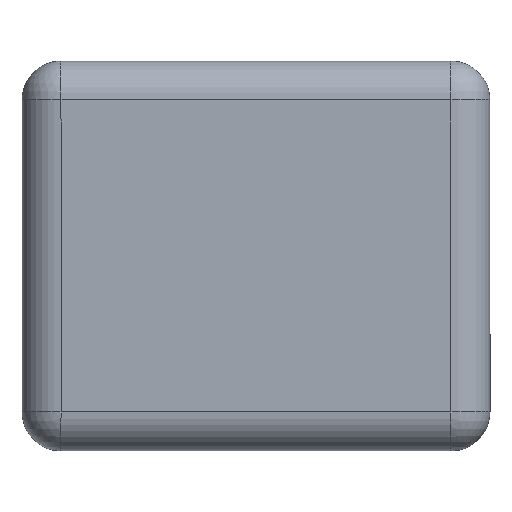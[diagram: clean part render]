
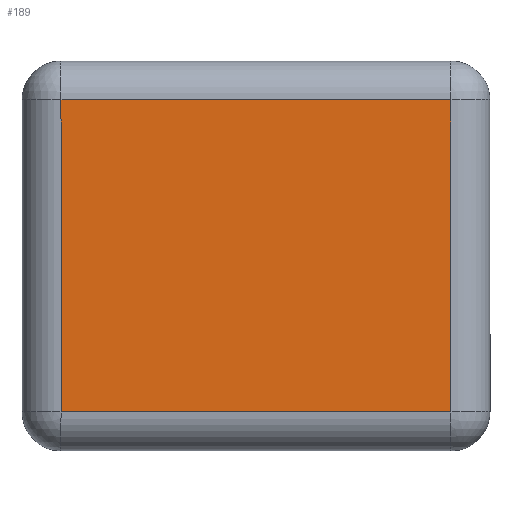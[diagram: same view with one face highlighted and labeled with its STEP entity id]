
A CAD part, top view. The second image highlights one B-rep face of the part: STEP entity #189.
In plain terms, the highlighted planar face has unit normal (0, 0, 1).
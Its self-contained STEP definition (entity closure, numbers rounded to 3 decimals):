
#12 = EDGE_LOOP ( 'NONE', ( #440, #148, #724, #612 ) ) ;
#19 = LINE ( 'NONE', #141, #840 ) ;
#79 = DIRECTION ( 'NONE',  ( 0., 1., 0. ) ) ;
#84 = EDGE_CURVE ( 'NONE', #88, #263, #132, .T. ) ;
#88 = VERTEX_POINT ( 'NONE', #283 ) ;
#94 = EDGE_CURVE ( 'NONE', #263, #571, #19, .T. ) ;
#97 = VERTEX_POINT ( 'NONE', #266 ) ;
#121 = VECTOR ( 'NONE', #237, 1000. ) ;
#132 = LINE ( 'NONE', #679, #147 ) ;
#141 = CARTESIAN_POINT ( 'NONE',  ( -12., 12., 1.5 ) ) ;
#147 = VECTOR ( 'NONE', #79, 1000. ) ;
#148 = ORIENTED_EDGE ( 'NONE', *, *, #225, .T. ) ;
#154 = DIRECTION ( 'NONE',  ( 1., 0., 0. ) ) ;
#168 = CARTESIAN_POINT ( 'NONE',  ( 21., 15., 1.5 ) ) ;
#173 = AXIS2_PLACEMENT_3D ( 'NONE', #168, #644, #154 ) ;
#189 = ADVANCED_FACE ( 'NONE', ( #834 ), #768, .T. ) ;
#225 = EDGE_CURVE ( 'NONE', #97, #88, #304, .T. ) ;
#237 = DIRECTION ( 'NONE',  ( 1., 0., 0. ) ) ;
#263 = VERTEX_POINT ( 'NONE', #447 ) ;
#266 = CARTESIAN_POINT ( 'NONE',  ( -12., -12., 1.5 ) ) ;
#283 = CARTESIAN_POINT ( 'NONE',  ( 18., -12., 1.5 ) ) ;
#304 = LINE ( 'NONE', #844, #121 ) ;
#325 = DIRECTION ( 'NONE',  ( 0., -1., 0. ) ) ;
#440 = ORIENTED_EDGE ( 'NONE', *, *, #555, .T. ) ;
#447 = CARTESIAN_POINT ( 'NONE',  ( 18., 12., 1.5 ) ) ;
#472 = CARTESIAN_POINT ( 'NONE',  ( -12., 12., 1.5 ) ) ;
#555 = EDGE_CURVE ( 'NONE', #571, #97, #733, .T. ) ;
#571 = VERTEX_POINT ( 'NONE', #472 ) ;
#612 = ORIENTED_EDGE ( 'NONE', *, *, #94, .T. ) ;
#644 = DIRECTION ( 'NONE',  ( 0., 0., 1. ) ) ;
#664 = DIRECTION ( 'NONE',  ( -1., 0., 0. ) ) ;
#679 = CARTESIAN_POINT ( 'NONE',  ( 18., 12., 1.5 ) ) ;
#724 = ORIENTED_EDGE ( 'NONE', *, *, #84, .T. ) ;
#729 = CARTESIAN_POINT ( 'NONE',  ( -12., -12., 1.5 ) ) ;
#733 = LINE ( 'NONE', #729, #759 ) ;
#759 = VECTOR ( 'NONE', #325, 1000. ) ;
#768 = PLANE ( 'NONE',  #173 ) ;
#834 = FACE_OUTER_BOUND ( 'NONE', #12, .T. ) ;
#840 = VECTOR ( 'NONE', #664, 1000. ) ;
#844 = CARTESIAN_POINT ( 'NONE',  ( 18., -12., 1.5 ) ) ;
